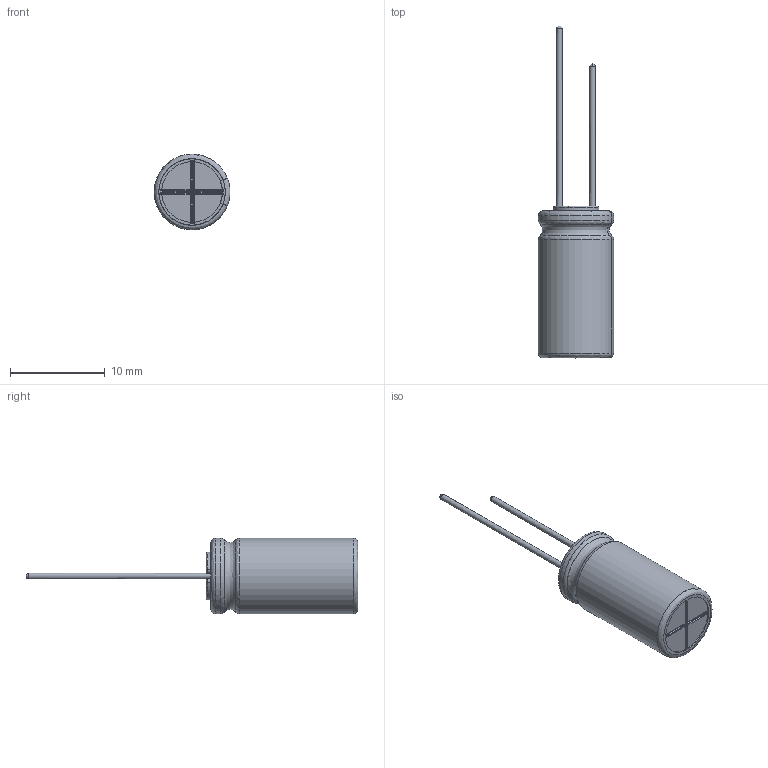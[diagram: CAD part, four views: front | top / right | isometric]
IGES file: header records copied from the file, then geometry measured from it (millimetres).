
Start section: JAMA-IS VERSION  1.0
Bounding box: 7.99 x 35 x 8 mm (x, y, z)
Surface area: 1377.1 mm2 (no closed solid volume)
Topology: 0 solids, 0 shells, 115 faces, 1347 edges, 1328 vertices
Faces by surface type: bspline 115
